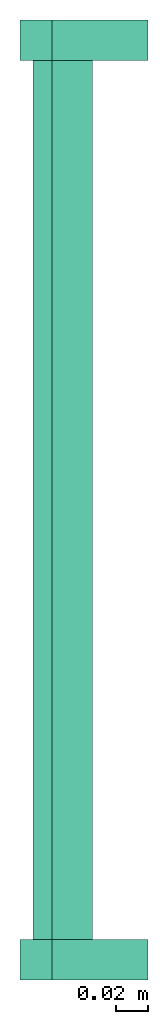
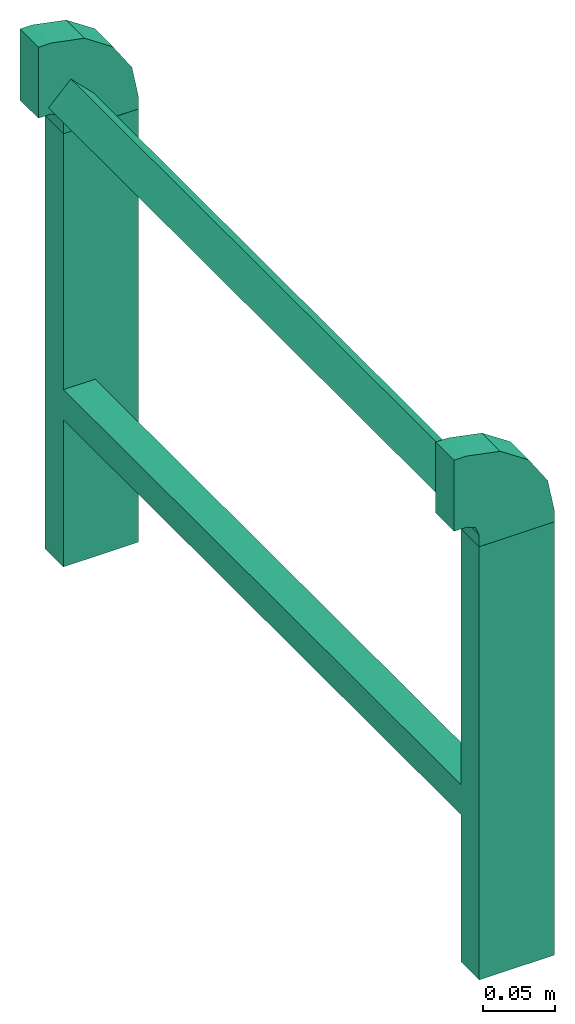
# One storey: 1 flow fitting, 1 flow segment.
"""IFC2X3 building model written with IfcOpenShell, lengths in millimetres."""

from ifc_helpers import new_model, entity, si_unit, converted_unit, derived_unit, direction, frame, origin_with_axes, place, context, subcontext, project, spatial, open_shell, faceted_brep, surface_model, source, transform, mapped, type_object, element, save


model = new_model("IFC2X3")

# Units and contexts
model_context = context("Model", 3, precision=0.01, world=frame((0.0, 4.29681676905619e-09, 0.0)), true_north=direction((4.01073788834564e-13, 1.0)))
plan_context = context("Plan", 3, precision=0.01, world=frame((0.0, 4.29681676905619e-09, 0.0)), true_north=direction((4.01073788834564e-13, 1.0)))
body_context = subcontext(model_context, "Body", "Model", "MODEL_VIEW")
ifc_project = project(units=[converted_unit("PLANEANGLEUNIT", "DEGREE", entity("IfcPositiveLengthMeasure", 0.0174532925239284), si_unit("PLANEANGLEUNIT", "RADIAN"), dimensions=[0, 0, 0, 0, 0, 0, 0]), si_unit("AREAUNIT", "SQUARE_METRE"), si_unit("LENGTHUNIT", "METRE", prefix="MILLI"), si_unit("MASSUNIT", "GRAM", prefix="KILO"), si_unit("POWERUNIT", "WATT"), si_unit("PRESSUREUNIT", "PASCAL"), si_unit("FORCEUNIT", "NEWTON", prefix="KILO"), si_unit("ELECTRICVOLTAGEUNIT", "VOLT"), si_unit("ELECTRICCURRENTUNIT", "AMPERE"), si_unit("THERMODYNAMICTEMPERATUREUNIT", "DEGREE_CELSIUS"), si_unit("TIMEUNIT", "SECOND"), si_unit("VOLUMEUNIT", "CUBIC_METRE"), derived_unit("LINEARVELOCITYUNIT", [(si_unit("LENGTHUNIT", "METRE"), 1), (si_unit("TIMEUNIT", "SECOND"), -1)]), derived_unit("VOLUMETRICFLOWRATEUNIT", [(si_unit("VOLUMEUNIT", "CUBIC_METRE"), 1), (si_unit("TIMEUNIT", "SECOND"), -1)]), derived_unit("THERMALTRANSMITTANCEUNIT", [(si_unit("POWERUNIT", "WATT"), 1), (si_unit("THERMODYNAMICTEMPERATUREUNIT", "KELVIN"), -1), (si_unit("AREAUNIT", "SQUARE_METRE"), -1)]), derived_unit("SOUNDPRESSUREUNIT", [(si_unit("PRESSUREUNIT", "PASCAL"), 1)])], contexts=[model_context, plan_context])

# Site, building, storey
site_placement = place(None, frame((0.0, -4.29681676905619e-09, 0.0), z_axis=(0.0, 0.0, 1.0), x_axis=(1.0, 0.0, 0.0)))
site = spatial("IfcSite", under=ifc_project, at=site_placement, Name="ENGM", CompositionType="ELEMENT")
building_placement = place(site_placement, frame((0.0, 4.29681676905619e-09, 0.0), z_axis=(0.0, 0.0, 1.0), x_axis=(1.0, 0.0, 0.0)))
building = spatial("IfcBuilding", under=site, at=building_placement, Name="TS", CompositionType="ELEMENT")
storey_placement = place(building_placement, frame((0.0, 0.0, 207370.0), z_axis=(0.0, 0.0, 1.0), x_axis=(1.0, 0.0, 0.0)))
storey = spatial("IfcBuildingStorey", under=building, at=storey_placement, Name="Nivå E", CompositionType="ELEMENT", Elevation=207370.0)

# Flow fitting
cable_carrier_fitting_type = type_object("IfcCableCarrierFittingType", Name="Standard 10mm", PredefinedType="BEND")
shared_shape = source(origin_with_axes(), body_context, "Body", "SurfaceModel", [
    surface_model("IfcShellBasedSurfaceModel", [(-13.21216, -24.67157, 274.60001), (-40.0, 30.0, 274.60001), (-32.92893, 32.92893, 274.60001), (-40.0, -30.0, 274.60001), (-30.0, 40.0, 274.60001), (30.0, 40.0, 274.60001), (24.67157, 13.21216, 274.60001), (9.49747, -9.49747, 274.60001), (-32.92893, 32.92893, 300.0), (-40.0, 30.0, 300.0), (-13.21216, -24.67157, 300.0), (-40.0, -30.0, 300.0), (9.49747, -9.49747, 300.0), (24.67157, 13.21216, 300.0), (-30.0, 40.0, 300.0), (30.0, 40.0, 300.0), (-13.21216, -24.67157, -300.0), (-40.0, 30.0, -300.0), (-32.92893, 32.92893, -300.0), (-40.0, -30.0, -300.0), (-30.0, 40.0, -300.0), (30.0, 40.0, -300.0), (24.67157, 13.21216, -300.0), (9.49747, -9.49747, -300.0), (-32.92893, 32.92893, -274.60001), (-40.0, 30.0, -274.60001), (-13.21216, -24.67157, -274.60001), (-40.0, -30.0, -274.60001), (9.49747, -9.49747, -274.60001), (24.67157, 13.21216, -274.60001), (-30.0, 40.0, -274.60001), (30.0, 40.0, -274.60001), (-22.88338, -26.59529, 300.0), (-26.60608, -27.33578, 274.60001), (-1.85734, -17.08452, 274.60001), (-1.85734, -17.08452, 300.0), (26.59529, 22.88338, 274.60001), (27.33578, 26.60608, 300.0), (17.08452, 1.85734, 300.0), (17.08452, 1.85734, 274.60001), (-22.88338, -26.59529, -300.0), (-26.60608, -27.33578, -274.60001), (-1.85734, -17.08452, -274.60001), (-1.85734, -17.08452, -300.0), (26.59529, 22.88338, -274.60001), (27.33578, 26.60608, -300.0), (17.08452, 1.85734, -300.0), (17.08452, 1.85734, -274.60001), (-23.94868, 41.90919, 274.60001), (-5.98816, 23.94868, -274.60001), (-23.94868, 41.90919, -274.60001), (-5.98816, 23.94868, 274.60001), (-23.94868, 5.98816, -274.60001), (-23.94868, 5.98816, 274.60001), (-41.90919, 23.94868, -274.60001), (-41.90919, 23.94868, 274.60001), (-50.0, 30.0, 300.0), (-50.0, 30.0, 274.60001), (-50.0, -30.0, 274.60001), (-50.0, -30.0, 300.0), (-50.0, 30.0, -274.60001), (-50.0, 30.0, -300.0), (-50.0, -30.0, -300.0), (-50.0, -30.0, -274.60001), (-30.0, 50.0, 274.60001), (30.0, 50.0, 274.60001), (30.0, 50.0, 300.0), (-30.0, 50.0, 300.0), (-30.0, 50.0, -300.0), (30.0, 50.0, -300.0), (30.0, 50.0, -274.60001), (-30.0, 50.0, -274.60001)], [open_shell([[[0, 1, 2]], [[0, 3, 1]], [[4, 5, 6]], [[7, 0, 2]], [[2, 6, 7]], [[2, 4, 6]], [[8, 9, 10]], [[10, 9, 11]], [[12, 13, 8]], [[8, 13, 14]], [[15, 14, 13]], [[12, 8, 10]], [[16, 17, 18]], [[16, 19, 17]], [[20, 21, 22]], [[23, 16, 18]], [[18, 22, 23]], [[18, 20, 22]], [[24, 25, 26]], [[26, 25, 27]], [[28, 29, 24]], [[24, 29, 30]], [[31, 30, 29]], [[28, 24, 26]], [[8, 1, 9]], [[2, 1, 8]], [[14, 4, 2]], [[8, 14, 2]], [[0, 32, 33]], [[34, 12, 35]], [[11, 33, 32]], [[12, 34, 7]], [[0, 10, 32]], [[35, 0, 34]], [[13, 36, 37]], [[5, 15, 37]], [[7, 38, 12]], [[5, 37, 36]], [[33, 11, 3]], [[39, 13, 38]], [[36, 13, 6]], [[38, 7, 39]], [[39, 6, 13]], [[35, 10, 0]], [[25, 18, 17]], [[24, 18, 25]], [[30, 20, 24]], [[18, 24, 20]], [[26, 40, 16]], [[40, 26, 41]], [[19, 41, 27]], [[23, 42, 43]], [[26, 16, 43]], [[31, 44, 45]], [[23, 28, 42]], [[26, 43, 42]], [[45, 21, 31]], [[19, 40, 41]], [[28, 46, 47]], [[44, 29, 22]], [[22, 47, 46]], [[28, 23, 46]], [[22, 29, 47]], [[44, 22, 45]], [[48, 49, 50]], [[49, 48, 51]], [[49, 51, 52]], [[53, 52, 51]], [[50, 49, 54]], [[52, 54, 49]], [[48, 50, 55]], [[54, 55, 50]], [[51, 48, 53]], [[55, 53, 48]], [[54, 52, 53]], [[53, 55, 54]], [[56, 57, 58]], [[58, 59, 56]], [[60, 61, 62]], [[62, 63, 60]], [[57, 56, 1]], [[9, 1, 56]], [[57, 3, 58]], [[3, 57, 1]], [[64, 5, 4]], [[5, 64, 65]], [[59, 58, 3]], [[3, 11, 59]], [[56, 59, 11]], [[56, 11, 9]], [[15, 66, 67]], [[15, 67, 14]], [[61, 60, 17]], [[25, 17, 60]], [[61, 19, 62]], [[19, 61, 17]], [[68, 21, 20]], [[21, 68, 69]], [[63, 62, 19]], [[19, 27, 63]], [[60, 63, 27]], [[60, 27, 25]], [[31, 70, 71]], [[31, 71, 30]], [[65, 64, 67]], [[67, 66, 65]], [[69, 68, 70]], [[71, 70, 68]], [[4, 14, 64]], [[67, 64, 14]], [[15, 5, 65]], [[65, 66, 15]], [[20, 30, 71]], [[71, 68, 20]], [[31, 21, 70]], [[69, 70, 21]]])]),
])
flow_fitting_placement = place(storey_placement, frame((522211.7653, 456660.95496, 2945.48793), z_axis=(0.0, 1.0, 0.0), x_axis=(1.0, 0.0, 0.0)))
element("IfcFlowFitting", 1, at=flow_fitting_placement, inside=storey, type_object=cable_carrier_fitting_type, Name="Standard 10mm", context=body_context, shape_type="MappedRepresentation", body=[
    mapped(shared_shape, transform((0.0, 0.0, 0.0), scale=1.0)),
])

# Flow segment
cable_carrier_segment_type = type_object("IfcCableCarrierSegmentType", Name="Kabelbro", PredefinedType="CABLELADDERSEGMENT")
flow_segment_placement = place(storey_placement, frame((522211.7653, 456660.95496, 2895.48793), z_axis=(1.0, 0.0, 0.0), x_axis=(0.0, 0.0, -1.0)))
element("IfcFlowSegment", 2, at=flow_segment_placement, inside=storey, type_object=cable_carrier_segment_type, Name="Kabelbro", context=body_context, shape_type="Brep", body=[
    faceted_brep([(0.0, -274.60001, 30.0), (0.0, -300.0, 30.0), (0.0, -300.0, -30.0), (0.0, -274.60001, -30.0), (0.0, 300.0, 30.0), (0.0, 274.60001, 30.0), (0.0, 274.60001, -30.0), (0.0, 300.0, -30.0), (241.30001, -274.60001, -4.6), (241.30001, -274.60001, -30.0), (215.89999, -274.60001, -30.0), (215.89999, -274.60001, -4.6), (215.89999, 274.60001, -30.0), (241.30001, 274.60001, -30.0), (241.30001, 274.60001, -4.6), (215.89999, 274.60001, -4.6), (365.487930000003, -300.0, 30.0), (365.487930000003, -300.0, -7.84921546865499), (365.487930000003, -300.0, -30.0), (365.487930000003, -274.60001, 30.0), (365.487930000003, -290.622838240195, 30.0), (365.487930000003, -274.60001, -30.0), (365.487930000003, -274.60001, 7.84921546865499), (365.487930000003, -283.977171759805, -30.0), (365.487930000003, 300.0, -30.0), (365.487930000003, 300.0, 7.84921546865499), (365.487930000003, 300.0, 30.0), (365.487930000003, 274.60001, -30.0), (365.487930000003, 290.622838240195, -30.0), (365.487930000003, 274.60001, 30.0), (365.487930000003, 274.60001, -7.84921546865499), (365.487930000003, 283.977171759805, 30.0)], [[[0, 1, 2]], [[2, 3, 0]], [[4, 5, 6]], [[6, 7, 4]], [[8, 9, 10]], [[10, 11, 8]], [[12, 13, 14]], [[14, 15, 12]], [[14, 9, 8]], [[9, 14, 13]], [[15, 8, 11]], [[8, 15, 14]], [[12, 11, 10]], [[11, 12, 15]], [[13, 10, 9]], [[10, 13, 12]], [[16, 17, 2, 1]], [[17, 18, 2]], [[19, 20, 1, 0]], [[20, 16, 1]], [[21, 22, 0, 3]], [[22, 19, 0]], [[18, 23, 3, 2]], [[23, 21, 3]], [[24, 25, 4, 7]], [[25, 26, 4]], [[27, 28, 7, 6]], [[28, 24, 7]], [[29, 30, 6, 5]], [[30, 27, 6]], [[26, 31, 5, 4]], [[31, 29, 5]], [[20, 19, 22, 21, 23, 18, 17, 16]], [[28, 27, 30, 29, 31, 26, 25, 24]]], orient=[[False], [False], [False], [False], [False], [False], [False], [False], [False], [False], [False], [False], [False], [False], [False], [False], [False], [False], [False], [False], [False], [False], [False], [False], [False], [False], [False], [False], [False], [False], [False], [False], [False], [False]]),
])

save(model, "model.ifc")
